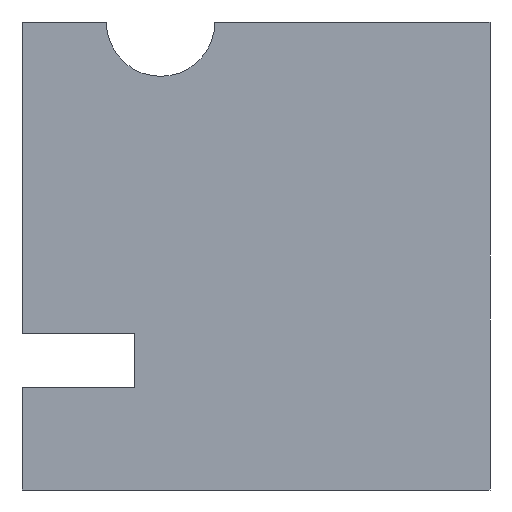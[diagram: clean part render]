
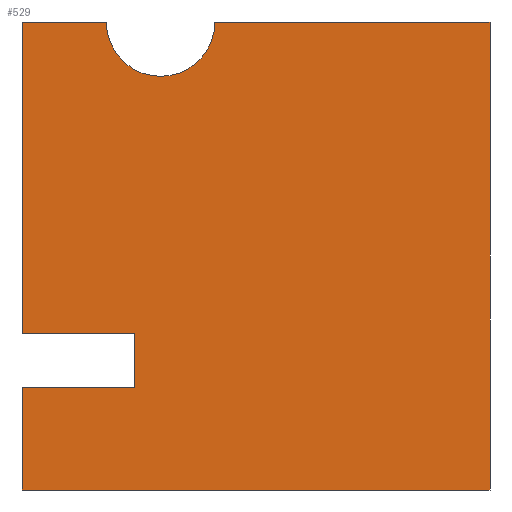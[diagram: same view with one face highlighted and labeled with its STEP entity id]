
A CAD part, left-side view. The second image highlights one B-rep face of the part: STEP entity #529.
In plain terms, the highlighted planar face has unit normal (-1, 0, 0).
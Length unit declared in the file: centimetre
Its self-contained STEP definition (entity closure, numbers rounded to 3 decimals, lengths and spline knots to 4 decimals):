
#49 = CARTESIAN_POINT ( 'NONE',  ( 0., 819.7975, 1000. ) ) ;
#51 = ORIENTED_EDGE ( 'NONE', *, *, #339, .T. ) ;
#53 = DIRECTION ( 'NONE',  ( 0., 1., 0. ) ) ;
#54 = FACE_OUTER_BOUND ( 'NONE', #150, .T. ) ;
#71 = CARTESIAN_POINT ( 'NONE',  ( 0., 760.6096, 218.6812 ) ) ;
#75 = ORIENTED_EDGE ( 'NONE', *, *, #283, .F. ) ;
#82 = CARTESIAN_POINT ( 'NONE',  ( 0., 1000., 1000. ) ) ;
#84 = DIRECTION ( 'NONE',  ( 0., -1., 0. ) ) ;
#94 = LINE ( 'NONE', #818, #340 ) ;
#150 = EDGE_LOOP ( 'NONE', ( #788, #75, #212, #1083, #447, #852, #332, #870, #51, #935 ) ) ;
#180 = CARTESIAN_POINT ( 'NONE',  ( 0., 1000., 1000. ) ) ;
#184 = CARTESIAN_POINT ( 'NONE',  ( 0., 587.8157, 1000. ) ) ;
#200 = EDGE_CURVE ( 'NONE', #1016, #937, #248, .T. ) ;
#212 = ORIENTED_EDGE ( 'NONE', *, *, #312, .F. ) ;
#232 = VERTEX_POINT ( 'NONE', #49 ) ;
#248 = LINE ( 'NONE', #71, #608 ) ;
#259 = VERTEX_POINT ( 'NONE', #184 ) ;
#277 = LINE ( 'NONE', #910, #872 ) ;
#283 = EDGE_CURVE ( 'NONE', #232, #259, #287, .T. ) ;
#287 = CIRCLE ( 'NONE', #781, 115.9909 ) ;
#306 = CARTESIAN_POINT ( 'NONE',  ( 0., 0., 0. ) ) ;
#312 = EDGE_CURVE ( 'NONE', #1131, #232, #94, .T. ) ;
#323 = CARTESIAN_POINT ( 'NONE',  ( 0., 0., 1000. ) ) ;
#332 = ORIENTED_EDGE ( 'NONE', *, *, #200, .F. ) ;
#336 = DIRECTION ( 'NONE',  ( 0., 0., -1. ) ) ;
#339 = EDGE_CURVE ( 'NONE', #400, #489, #277, .T. ) ;
#340 = VECTOR ( 'NONE', #799, 100. ) ;
#341 = VECTOR ( 'NONE', #692, 100. ) ;
#349 = CARTESIAN_POINT ( 'NONE',  ( 0., 760.6096, 218.6812 ) ) ;
#357 = EDGE_CURVE ( 'NONE', #1016, #400, #647, .T. ) ;
#364 = VECTOR ( 'NONE', #720, 100. ) ;
#368 = CARTESIAN_POINT ( 'NONE',  ( 0., 1000., 218.6812 ) ) ;
#400 = VERTEX_POINT ( 'NONE', #762 ) ;
#439 = VECTOR ( 'NONE', #661, 100. ) ;
#447 = ORIENTED_EDGE ( 'NONE', *, *, #864, .F. ) ;
#489 = VERTEX_POINT ( 'NONE', #306 ) ;
#500 = LINE ( 'NONE', #866, #709 ) ;
#529 = ADVANCED_FACE ( 'NONE', ( #54 ), #774, .F. ) ;
#530 = LINE ( 'NONE', #82, #1155 ) ;
#546 = DIRECTION ( 'NONE',  ( -1., 0., 0. ) ) ;
#578 = CARTESIAN_POINT ( 'NONE',  ( 0., 1000., 335.0348 ) ) ;
#592 = DIRECTION ( 'NONE',  ( 0., 0., -1. ) ) ;
#607 = VERTEX_POINT ( 'NONE', #938 ) ;
#608 = VECTOR ( 'NONE', #775, 100. ) ;
#624 = CARTESIAN_POINT ( 'NONE',  ( 0., 1000., 1000. ) ) ;
#635 = LINE ( 'NONE', #1174, #1134 ) ;
#641 = DIRECTION ( 'NONE',  ( 0., 0., 1. ) ) ;
#647 = LINE ( 'NONE', #624, #364 ) ;
#657 = CARTESIAN_POINT ( 'NONE',  ( 0., 1000., 1000. ) ) ;
#661 = DIRECTION ( 'NONE',  ( 0., -1., 0. ) ) ;
#667 = AXIS2_PLACEMENT_3D ( 'NONE', #1128, #939, #592 ) ;
#676 = EDGE_CURVE ( 'NONE', #259, #1120, #1108, .T. ) ;
#692 = DIRECTION ( 'NONE',  ( 0., 0., -1. ) ) ;
#694 = VERTEX_POINT ( 'NONE', #578 ) ;
#709 = VECTOR ( 'NONE', #53, 100. ) ;
#720 = DIRECTION ( 'NONE',  ( 0., 0., -1. ) ) ;
#762 = CARTESIAN_POINT ( 'NONE',  ( 0., 1000., 0. ) ) ;
#774 = PLANE ( 'NONE',  #667 ) ;
#775 = DIRECTION ( 'NONE',  ( 0., -1., 0. ) ) ;
#781 = AXIS2_PLACEMENT_3D ( 'NONE', #1168, #546, #641 ) ;
#788 = ORIENTED_EDGE ( 'NONE', *, *, #676, .F. ) ;
#799 = DIRECTION ( 'NONE',  ( 0., -1., 0. ) ) ;
#818 = CARTESIAN_POINT ( 'NONE',  ( 0., 1000., 1000. ) ) ;
#852 = ORIENTED_EDGE ( 'NONE', *, *, #1062, .F. ) ;
#864 = EDGE_CURVE ( 'NONE', #607, #694, #500, .T. ) ;
#866 = CARTESIAN_POINT ( 'NONE',  ( 0., 760.6096, 335.0348 ) ) ;
#870 = ORIENTED_EDGE ( 'NONE', *, *, #357, .T. ) ;
#872 = VECTOR ( 'NONE', #84, 100. ) ;
#884 = EDGE_CURVE ( 'NONE', #1120, #489, #1140, .T. ) ;
#910 = CARTESIAN_POINT ( 'NONE',  ( 0., 1000., 0. ) ) ;
#935 = ORIENTED_EDGE ( 'NONE', *, *, #884, .F. ) ;
#937 = VERTEX_POINT ( 'NONE', #349 ) ;
#938 = CARTESIAN_POINT ( 'NONE',  ( 0., 760.6096, 335.0348 ) ) ;
#939 = DIRECTION ( 'NONE',  ( 1., 0., 0. ) ) ;
#995 = DIRECTION ( 'NONE',  ( 0., 0., 1. ) ) ;
#1016 = VERTEX_POINT ( 'NONE', #368 ) ;
#1062 = EDGE_CURVE ( 'NONE', #937, #607, #635, .T. ) ;
#1083 = ORIENTED_EDGE ( 'NONE', *, *, #1113, .T. ) ;
#1108 = LINE ( 'NONE', #657, #439 ) ;
#1113 = EDGE_CURVE ( 'NONE', #1131, #694, #530, .T. ) ;
#1120 = VERTEX_POINT ( 'NONE', #1172 ) ;
#1128 = CARTESIAN_POINT ( 'NONE',  ( 0., 1000., 1000. ) ) ;
#1131 = VERTEX_POINT ( 'NONE', #180 ) ;
#1134 = VECTOR ( 'NONE', #995, 100. ) ;
#1140 = LINE ( 'NONE', #323, #341 ) ;
#1155 = VECTOR ( 'NONE', #336, 100. ) ;
#1168 = CARTESIAN_POINT ( 'NONE',  ( 0., 703.8066, 1000. ) ) ;
#1172 = CARTESIAN_POINT ( 'NONE',  ( 0., 0., 1000. ) ) ;
#1174 = CARTESIAN_POINT ( 'NONE',  ( 0., 760.6096, 218.6812 ) ) ;
